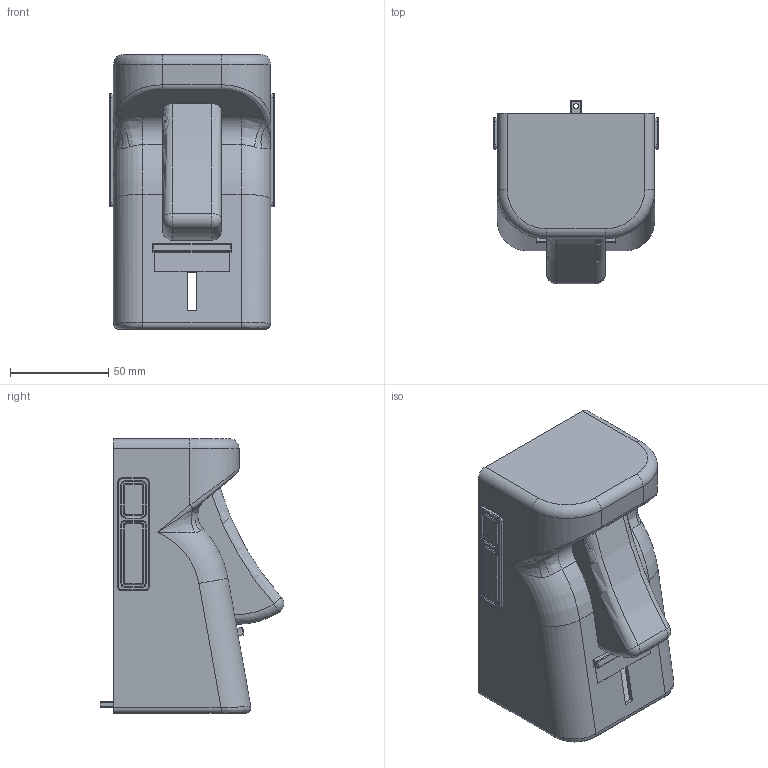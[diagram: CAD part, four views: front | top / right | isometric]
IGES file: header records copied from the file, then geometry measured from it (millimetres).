
Global section: file name: No Iges File Name specified; native system: Autodesk Inventor 2009; preprocessor: AutoDesk Inventor Iges Exporter R2009; author: hide; date: 20090826.064925; units: millimetre
Bounding box: 84 x 93.56 x 140 mm (x, y, z)
Volume: 78626.8 mm3; surface area: 80208.2 mm2
Topology: 1 solids, 1 shells, 554 faces, 1436 edges, 899 vertices
Faces by surface type: revolution 231, plane 116, cylinder 110, torus 50, bspline 45, sphere 2
